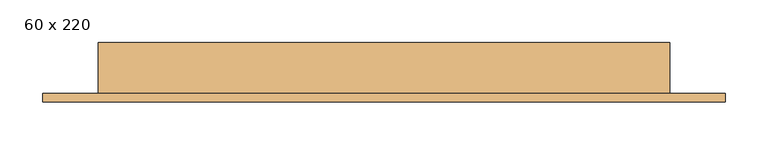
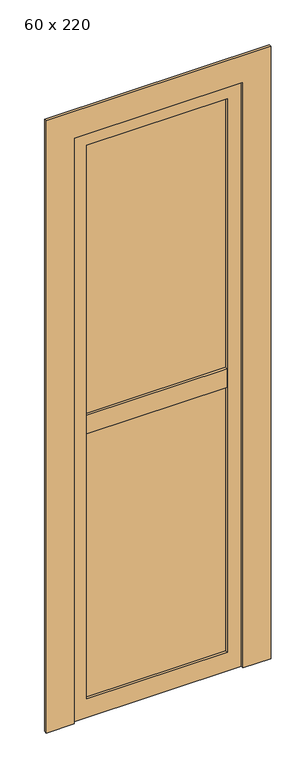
"""IFC4 building model written with IfcOpenShell, lengths in millimetres: door geometry, PORTA DE VIDRO COM ESQUADRIA DE ABRIR - 1 FOLHA : 60 x 220."""

from ifc_helpers import new_model, si_unit, frame, origin, place, context, project, spatial, polyline, outline, extrude, faceted_brep, source, transform, mapped, element, save


def door_60_x_220_c5cafb2c(model_context):
    return source(origin(), model_context, "Body", "SolidModel", [
        extrude(outline(polyline([(-220.0, -50.0), (280.0, -50.0), (280.0, -75.0), (-220.0, -75.0), (-220.0, -50.0)])), frame((0.0, 0.0, 1065.0), z_axis=(0.0, 0.0, 1.0), x_axis=(1.0, 0.0, 0.0)), (0.0, 0.0, 1.0), 70.0),
        extrude(outline(polyline([(280.0, -59.5), (280.0, -65.5), (-220.0, -65.5), (-220.0, -59.5), (280.0, -59.5)])), frame((0.0, 0.0, 70.0), z_axis=(0.0, 0.0, 1.0), x_axis=(1.0, 0.0, 0.0)), (0.0, 0.0, 1.0), 2080.0),
        extrude(outline(polyline([(2200.0, 330.0), (2200.0, -270.0), (0.0, -270.0), (0.0, 330.0), (2200.0, 330.0)]), holes=[polyline([(2150.0, 280.0), (70.0, 280.0), (70.0, -220.0), (2150.0, -220.0), (2150.0, 280.0)])]), frame((0.0, -75.0, 0.0), z_axis=(0.0, 1.0, 0.0), x_axis=(0.0, 0.0, 1.0)), (0.0, 0.0, 1.0), 25.0),
        extrude(outline(polyline([(2200.0, -270.0), (2200.0, 330.0), (0.0, 330.0), (0.0, 430.0), (2300.0, 430.0), (2300.0, -370.0), (0.0, -370.0), (0.0, -270.0), (2200.0, -270.0)])), frame((0.0, -85.0, 0.0), z_axis=(0.0, 1.0, 0.0), x_axis=(0.0, 0.0, 1.0)), (0.0, 0.0, 1.0), 10.0),
        faceted_brep([(-305.0, -15.0, 0.0), (-260.0, -15.0, 0.0), (-260.0, -50.0, 0.0), (-270.0, -50.0, 0.0), (-270.0, -75.0, 0.0), (-305.0, -75.0, 0.0), (-305.0, -15.0, 2235.0), (365.0, -15.0, 2235.0), (365.0, -15.0, 0.0), (320.0, -15.0, 0.0), (320.0, -15.0, 2190.0), (-260.0, -15.0, 2190.0), (-260.0, -50.0, 2190.0), (320.0, -50.0, 2190.0), (320.0, -50.0, 0.0), (330.0, -50.0, 0.0), (330.0, -50.0, 2200.0), (-270.0, -50.0, 2200.0), (-270.0, -75.0, 2200.0), (330.0, -75.0, 2200.0), (330.0, -75.0, 0.0), (365.0, -75.0, 0.0), (365.0, -75.0, 2235.0), (-305.0, -75.0, 2235.0)], [[[0, 1, 2, 3, 4, 5]], [[1, 0, 6, 7, 8, 9, 10, 11]], [[2, 1, 11, 12]], [[3, 2, 12, 13, 14, 15, 16, 17]], [[4, 3, 17, 18]], [[5, 4, 18, 19, 20, 21, 22, 23]], [[0, 5, 23, 6]], [[7, 22, 21, 8]], [[8, 21, 20, 15, 14, 9]], [[13, 10, 9, 14]], [[19, 16, 15, 20]], [[12, 11, 10, 13]], [[18, 17, 16, 19]], [[6, 23, 22, 7]]]),
    ])


if __name__ == "__main__":
    model = new_model("IFC4")
    model_context = context("Model", 3, world=origin())
    ifc_project = project(units=[si_unit("LENGTHUNIT", "METRE", prefix="MILLI")], contexts=[model_context])
    site = spatial("IfcSite", under=ifc_project)
    building = spatial("IfcBuilding", under=site)
    placement = place(None, origin())
    door_60_x_220_shape = door_60_x_220_c5cafb2c(model_context)
    element("IfcDoor", 1, ObjectType="PORTA DE VIDRO COM ESQUADRIA DE ABRIR - 1 FOLHA : 60 x 220", at=placement, inside=building, context=model_context, shape_type="MappedRepresentation", body=[
        mapped(door_60_x_220_shape, transform((0.0, 0.0, 0.0), x_axis=(1.0, 0.0, 0.0), y_axis=(0.0, 1.0, 0.0), z_axis=(0.0, 0.0, 1.0))),
    ])
    save(model, "model.ifc")
